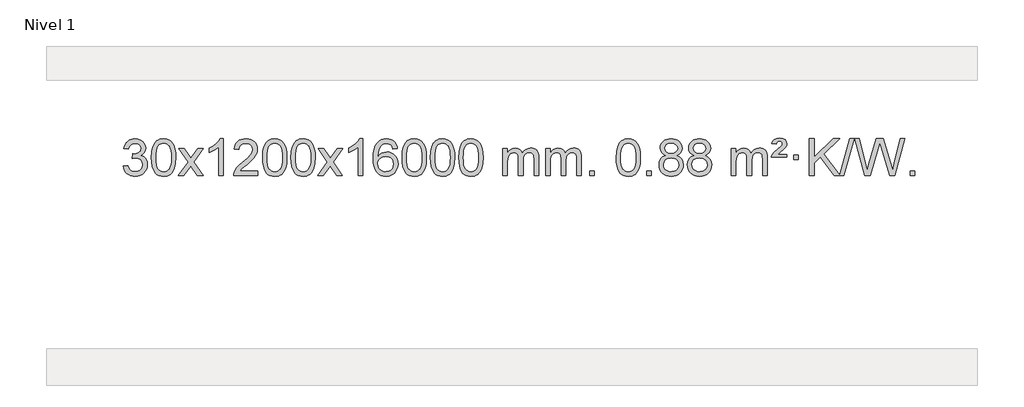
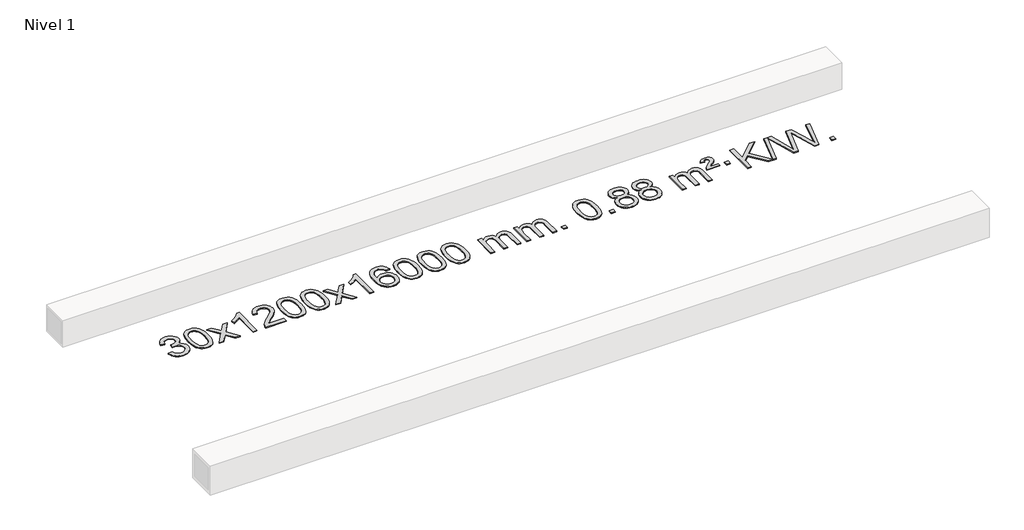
# One storey, part 3 of 4: 1 proxy.
"""IFC4 building model written with IfcOpenShell, lengths in millimetres."""

from ifc_helpers import new_model, si_unit, origin, origin_with_axes, place, context, project, spatial, polyline, outline, extrude, element, save

model = new_model("IFC4")

# Units and contexts
model_context = context("Model", 3, world=origin())
ifc_project = project(units=[si_unit("LENGTHUNIT", "METRE", prefix="MILLI")], contexts=[model_context])

# Site, building, storey
site = spatial("IfcSite", under=ifc_project)
building = spatial("IfcBuilding", under=site)
storey = spatial("IfcBuildingStorey", under=building, Name="Nivel 1", Elevation=0.0)

# Proxy
placement = place(None, origin())
element("IfcBuildingElementProxy", 1, Name="Texto de modelo 1", ObjectType="Texto de modelo 1", at=placement, inside=storey, context=model_context, shape_type="SweptSolid", body=[
    extrude(outline(polyline([(-19164.9669637, -909.5899742), (-19114.7388086, -903.3114548), (-19103.4938823, -934.87573), (-19087.0250316, -956.1883602), (-19064.5229163, -968.3284661), (-19035.1781958, -972.375168), (-19000.744441, -966.8078871), (-18986.4706196, -959.8487861), (-18974.1588355, -950.1060446), (-18957.1626873, -925.1881708), (-18951.4973046, -894.9727962), (-18957.1136364, -866.2902633), (-18973.9626318, -843.0278585), (-18999.4691168, -827.6136029), (-19031.0579174, -822.4755177), (-19066.2764871, -827.9692222), (-19060.6846808, -777.7410671), (-19052.6403278, -778.3296783), (-19022.5475806, -774.7244347), (-18995.643144, -763.9087041), (-18984.569896, -755.729461), (-18976.6604331, -745.6127062), (-18971.9147553, -733.5584395), (-18970.3328628, -719.5666609), (-18974.919125, -697.8738859), (-18988.6779116, -680.2768638), (-19009.6717108, -668.6150046), (-19035.9630107, -664.7277182), (-19062.3033616, -668.6517928), (-19083.836721, -680.4240166), (-19099.5575449, -700.0443897), (-19108.4602892, -727.512912), (-19158.6884443, -721.2343926), (-19152.7348873, -697.2546179), (-19143.8995881, -676.13206), (-19132.1825465, -657.866719), (-19117.5837627, -642.4585947), (-19100.5630891, -630.2265184), (-19081.5803781, -621.489321), (-19060.6356298, -616.2470026), (-19037.7288443, -614.4995631), (-19006.1523064, -617.9453911), (-18977.1509424, -628.2828752), (-18952.6990525, -644.5923103), (-18934.7709366, -665.9539915), (-18923.7712649, -690.565297), (-18920.1047077, -716.623605), (-18923.5873239, -740.9038166), (-18934.0351726, -762.9276854), (-18951.3011009, -781.6896672), (-18975.237956, -796.1842178), (-18943.7963082, -808.8884093), (-18920.4971152, -830.5198707), (-18906.0761409, -859.9013793), (-18901.2691495, -895.855713), (-18903.6726452, -921.3376725), (-18910.8831323, -944.8085438), (-18922.9006109, -966.2683269), (-18939.7250808, -985.7170217), (-18960.2222393, -1001.8547786), (-18983.2577835, -1013.3817477), (-19008.8317136, -1020.2979292), (-19036.9440294, -1022.6033231), (-19062.3524125, -1020.6351544), (-19085.5044527, -1014.7306484), (-19106.40015, -1004.889805), (-19125.0395045, -991.1126243), (-19140.6683579, -974.2084466), (-19152.5325522, -954.9866124), (-19160.6320875, -933.4471215), (-19164.9669637, -909.5899742)])), origin_with_axes(), (0.0, 0.0, 1.0), 10.0),
    extrude(outline(polyline([(-18857.3195138, -818.649545), (-18853.6284312, -754.3315095), (-18842.5551831, -703.0364966), (-18824.2101343, -663.9796914), (-18812.3520713, -648.7463112), (-18798.7036493, -636.3762791), (-18783.218883, -626.8052158), (-18765.8517871, -619.9687421), (-18725.4706068, -614.4995631), (-18694.5194682, -617.7369247), (-18666.8056913, -627.4490093), (-18643.6291256, -643.2556724), (-18626.2896209, -664.7767691), (-18613.1930218, -691.8283585), (-18602.7451732, -724.2264995), (-18595.9025681, -765.3679693), (-18593.6216997, -818.649545), (-18597.2759942, -882.5996984), (-18608.2388776, -933.772084), (-18626.4735619, -972.8656773), (-18638.3040337, -988.1450429), (-18651.9432587, -1000.5794543), (-18667.4464191, -1010.2148969), (-18684.8686972, -1017.0973559), (-18725.4706068, -1022.6033231), (-18753.1353328, -1020.2120901), (-18777.6607992, -1013.0383912), (-18799.0470058, -1001.0822264), (-18817.2939528, -984.3435956), (-18834.8051357, -954.0853015), (-18847.3131236, -916.3835283), (-18854.8179163, -871.2382762), (-18857.3195138, -818.649545)]), holes=[polyline([(-18807.0913588, -818.5514431), (-18805.6198308, -862.2159702), (-18801.2052468, -897.5602329), (-18793.8476069, -924.5842311), (-18783.5469111, -943.2879649), (-18771.0879742, -956.0136163), (-18757.2556112, -965.1033672), (-18742.049822, -970.5572178), (-18725.4706068, -972.375168), (-18708.8913915, -970.5510864), (-18693.6856024, -965.0788418), (-18679.8532394, -955.958434), (-18667.3943025, -943.1898631), (-18657.0936066, -924.4554724), (-18649.7359667, -897.4376056), (-18645.3213828, -862.1362625), (-18643.8498548, -818.5514431), (-18645.2723318, -776.0426785), (-18649.539763, -741.3207496), (-18656.6521482, -714.3856562), (-18666.6094875, -695.2373983), (-18678.859958, -681.8894132), (-18692.8517365, -672.3551382), (-18708.5848232, -666.6345732), (-18726.059218, -664.7277182), (-18742.5525941, -666.4077126), (-18757.5008658, -671.4476959), (-18770.9040332, -679.8476682), (-18782.7620962, -691.6076293), (-18793.4061486, -712.4542757), (-18801.0090431, -740.5604601), (-18805.5707799, -775.9261826), (-18807.0913588, -818.5514431)])]), origin_with_axes(), (0.0, 0.0, 1.0), 10.0),
    extrude(outline(polyline([(-18568.5076222, -1016.3248037), (-18461.1841814, -867.9947832), (-18562.2291028, -721.2343926), (-18501.7983537, -721.2343926), (-18453.0417266, -791.8677357), (-18430.2820938, -825.2223699), (-18410.5636189, -797.9500514), (-18355.0379631, -721.2343926), (-18294.607214, -721.2343926), (-18400.7534324, -867.9947832), (-18298.5312886, -1016.3248037), (-18358.9620377, -1016.3248037), (-18420.4719073, -927.1502081), (-18431.7536218, -910.8652984), (-18508.0768731, -1016.3248037), (-18568.5076222, -1016.3248037)])), origin_with_axes(), (0.0, 0.0, 1.0), 10.0),
    extrude(outline(polyline([(-18078.7831102, -1016.3248037), (-18129.0112653, -1016.3248037), (-18129.0112653, -703.1836494), (-18149.980539, -720.1430094), (-18176.59067, -737.0778439), (-18229.4675754, -762.4371761), (-18229.4675754, -714.9558732), (-18190.0183628, -693.4960902), (-18155.8421254, -667.9650797), (-18128.9009007, -640.8153885), (-18111.1567258, -614.4995631), (-18078.7831102, -614.4995631), (-18078.7831102, -1016.3248037)])), origin_with_axes(), (0.0, 0.0, 1.0), 10.0),
    extrude(outline(polyline([(-17702.0719471, -966.0966486), (-17702.0719471, -1016.3248037), (-17965.7697613, -1016.3248037), (-17964.6661153, -998.6419425), (-17960.3741587, -981.6948452), (-17947.9887982, -954.6309931), (-17929.8644785, -928.3764814), (-17903.646755, -900.8956963), (-17866.9811828, -870.1530243), (-17812.7799022, -822.0095338), (-17780.2591338, -786.4721331), (-17763.9987496, -757.6301847), (-17758.5786216, -729.5730512), (-17763.6921813, -704.4221855), (-17779.0328605, -683.5142254), (-17802.6140964, -669.424345), (-17832.4493262, -664.7277182), (-17863.7806095, -669.3139804), (-17888.1221348, -683.072767), (-17903.830696, -704.9249575), (-17909.2630868, -733.7914314), (-17959.4912419, -727.512912), (-17955.1716941, -701.5833627), (-17947.3143478, -678.9279632), (-17935.919203, -659.5467134), (-17920.9862597, -643.4396134), (-17902.8588744, -630.7783414), (-17881.8804036, -621.7345757), (-17858.0508474, -616.3083162), (-17831.3702057, -614.4995631), (-17804.4504407, -616.5106513), (-17780.4921258, -622.5439161), (-17759.4952609, -632.5993573), (-17741.4598461, -646.6769749), (-17726.9744925, -663.7344368), (-17716.6278114, -682.7294105), (-17710.4198027, -703.661896), (-17708.3504665, -726.5318934), (-17710.5822839, -750.5545876), (-17717.2777363, -774.160349), (-17729.1603247, -798.1707806), (-17746.9535505, -823.4074854), (-17775.3172524, -853.5370208), (-17818.9112688, -892.225944), (-17876.6932675, -940.5411127), (-17899.3547984, -966.0966486), (-17702.0719471, -966.0966486)])), origin_with_axes(), (0.0, 0.0, 1.0), 10.0),
    extrude(outline(polyline([(-17651.8437921, -818.649545), (-17648.1527094, -754.3315095), (-17637.0794613, -703.0364966), (-17618.7344125, -663.9796914), (-17606.8763495, -648.7463112), (-17593.2279275, -636.3762791), (-17577.7431612, -626.8052158), (-17560.3760653, -619.9687421), (-17519.994885, -614.4995631), (-17489.0437465, -617.7369247), (-17461.3299695, -627.4490093), (-17438.1534038, -643.2556724), (-17420.8138991, -664.7767691), (-17407.7173001, -691.8283585), (-17397.2694514, -724.2264995), (-17390.4268463, -765.3679693), (-17388.1459779, -818.649545), (-17391.8002724, -882.5996984), (-17402.7631558, -933.772084), (-17420.9978401, -972.8656773), (-17432.8283119, -988.1450429), (-17446.4675369, -1000.5794543), (-17461.9706973, -1010.2148969), (-17479.3929754, -1017.0973559), (-17519.994885, -1022.6033231), (-17547.659611, -1020.2120901), (-17572.1850774, -1013.0383912), (-17593.571284, -1001.0822264), (-17611.818231, -984.3435956), (-17629.3294139, -954.0853015), (-17641.8374018, -916.3835283), (-17649.3421945, -871.2382762), (-17651.8437921, -818.649545)]), holes=[polyline([(-17601.615637, -818.5514431), (-17600.144109, -862.2159702), (-17595.7295251, -897.5602329), (-17588.3718851, -924.5842311), (-17578.0711893, -943.2879649), (-17565.6122524, -956.0136163), (-17551.7798894, -965.1033672), (-17536.5741002, -970.5572178), (-17519.994885, -972.375168), (-17503.4156697, -970.5510864), (-17488.2098806, -965.0788418), (-17474.3775176, -955.958434), (-17461.9185807, -943.1898631), (-17451.6178848, -924.4554724), (-17444.2602449, -897.4376056), (-17439.845661, -862.1362625), (-17438.374133, -818.5514431), (-17439.79661, -776.0426785), (-17444.0640412, -741.3207496), (-17451.1764264, -714.3856562), (-17461.1337658, -695.2373983), (-17473.3842362, -681.8894132), (-17487.3760147, -672.3551382), (-17503.1091014, -666.6345732), (-17520.5834962, -664.7277182), (-17537.0768723, -666.4077126), (-17552.025144, -671.4476959), (-17565.4283114, -679.8476682), (-17577.2863744, -691.6076293), (-17587.9304268, -712.4542757), (-17595.5333213, -740.5604601), (-17600.0950581, -775.9261826), (-17601.615637, -818.5514431)])]), origin_with_axes(), (0.0, 0.0, 1.0), 10.0),
    extrude(outline(polyline([(-17344.1963422, -818.649545), (-17340.5052595, -754.3315095), (-17329.4320115, -703.0364966), (-17311.0869627, -663.9796914), (-17299.2288997, -648.7463112), (-17285.5804777, -636.3762791), (-17270.0957113, -626.8052158), (-17252.7286155, -619.9687421), (-17212.3474351, -614.4995631), (-17181.3962966, -617.7369247), (-17153.6825196, -627.4490093), (-17130.505954, -643.2556724), (-17113.1664492, -664.7767691), (-17100.0698502, -691.8283585), (-17089.6220016, -724.2264995), (-17082.7793964, -765.3679693), (-17080.4985281, -818.649545), (-17084.1528226, -882.5996984), (-17095.115706, -933.772084), (-17113.3503902, -972.8656773), (-17125.1808621, -988.1450429), (-17138.820087, -1000.5794543), (-17154.3232475, -1010.2148969), (-17171.7455256, -1017.0973559), (-17212.3474351, -1022.6033231), (-17240.0121612, -1020.2120901), (-17264.5376275, -1013.0383912), (-17285.9238342, -1001.0822264), (-17304.1707811, -984.3435956), (-17321.6819641, -954.0853015), (-17334.1899519, -916.3835283), (-17341.6947446, -871.2382762), (-17344.1963422, -818.649545)]), holes=[polyline([(-17293.9681871, -818.5514431), (-17292.4966592, -862.2159702), (-17288.0820752, -897.5602329), (-17280.7244353, -924.5842311), (-17270.4237395, -943.2879649), (-17257.9648025, -956.0136163), (-17244.1324395, -965.1033672), (-17228.9266504, -970.5572178), (-17212.3474351, -972.375168), (-17195.7682199, -970.5510864), (-17180.5624308, -965.0788418), (-17166.7300677, -955.958434), (-17154.2711308, -943.1898631), (-17143.970435, -924.4554724), (-17136.6127951, -897.4376056), (-17132.1982111, -862.1362625), (-17130.7266831, -818.5514431), (-17132.1491602, -776.0426785), (-17136.4165913, -741.3207496), (-17143.5289766, -714.3856562), (-17153.4863159, -695.2373983), (-17165.7367864, -681.8894132), (-17179.7285649, -672.3551382), (-17195.4616516, -666.6345732), (-17212.9360463, -664.7277182), (-17229.4294225, -666.4077126), (-17244.3776942, -671.4476959), (-17257.7808616, -679.8476682), (-17269.6389245, -691.6076293), (-17280.2829769, -712.4542757), (-17287.8858715, -740.5604601), (-17292.4476082, -775.9261826), (-17293.9681871, -818.5514431)])]), origin_with_axes(), (0.0, 0.0, 1.0), 10.0),
    extrude(outline(polyline([(-17055.3844505, -1016.3248037), (-16948.0610098, -867.9947832), (-17049.1059312, -721.2343926), (-16988.6751821, -721.2343926), (-16939.918555, -791.8677357), (-16917.1589222, -825.2223699), (-16897.4404473, -797.9500514), (-16841.9147915, -721.2343926), (-16781.4840424, -721.2343926), (-16887.6302607, -867.9947832), (-16785.408117, -1016.3248037), (-16845.8388661, -1016.3248037), (-16907.3487357, -927.1502081), (-16918.6304502, -910.8652984), (-16994.9537015, -1016.3248037), (-17055.3844505, -1016.3248037)])), origin_with_axes(), (0.0, 0.0, 1.0), 10.0),
    extrude(outline(polyline([(-16565.6599386, -1016.3248037), (-16615.8880936, -1016.3248037), (-16615.8880936, -703.1836494), (-16636.8573674, -720.1430094), (-16663.4674983, -737.0778439), (-16716.3444038, -762.4371761), (-16716.3444038, -714.9558732), (-16676.8951912, -693.4960902), (-16642.7189538, -667.9650797), (-16615.777729, -640.8153885), (-16598.0335541, -614.4995631), (-16565.6599386, -614.4995631), (-16565.6599386, -1016.3248037)])), origin_with_axes(), (0.0, 0.0, 1.0), 10.0),
    extrude(outline(polyline([(-16188.9487755, -721.2343926), (-16239.1769306, -727.512912), (-16247.2703345, -702.6195637), (-16258.2086925, -685.6234155), (-16280.9928507, -669.9516425), (-16308.5349494, -664.7277182), (-16331.8831934, -667.768876), (-16353.8580112, -676.8923495), (-16372.7303576, -696.1080524), (-16388.1446132, -722.5587678), (-16398.5556736, -759.9723667), (-16402.4184346, -812.07672), (-16382.270764, -788.5690605), (-16358.1254423, -772.002108), (-16331.3313704, -762.1796587), (-16303.2374487, -758.9055089), (-16279.1043898, -761.1434577), (-16256.8352663, -767.8573042), (-16236.4300783, -779.0470482), (-16217.8888258, -794.7126898), (-16202.4807016, -813.9222613), (-16191.4748985, -835.743795), (-16184.8714167, -860.1772908), (-16182.6702561, -887.2227489), (-16186.8150599, -923.1893452), (-16199.2494714, -956.5317167), (-16218.9434208, -984.8095794), (-16244.8668388, -1005.5826494), (-16275.8425028, -1018.3481547), (-16310.6931904, -1022.6033231), (-16340.6357192, -1019.7828944), (-16367.6781115, -1011.3216086), (-16391.8203674, -997.2194654), (-16413.062487, -977.476465), (-16430.3805319, -951.2587415), (-16442.750564, -917.732429), (-16450.1725832, -876.8975275), (-16452.6465896, -828.7540371), (-16449.8997374, -774.779617), (-16441.6591807, -728.7146599), (-16427.9249196, -690.5591656), (-16408.6969539, -660.3131342), (-16387.8564389, -640.2696969), (-16363.6927232, -625.9529559), (-16336.2058068, -617.3629113), (-16305.3956897, -614.4995631), (-16282.2620436, -616.271528), (-16261.3234267, -621.5874229), (-16242.579839, -630.4472476), (-16226.0312806, -642.8510022), (-16212.1253412, -658.3817538), (-16201.3096105, -676.6225693), (-16193.5840886, -697.573449), (-16188.9487755, -721.2343926)]), holes=[polyline([(-16402.4184346, -886.4379339), (-16399.5121668, -908.6947946), (-16390.7933635, -929.9461112), (-16377.2553061, -948.2175837), (-16359.8912759, -961.5349119), (-16338.9342649, -969.665104), (-16314.617265, -972.375168), (-16281.4710973, -966.7588362), (-16267.5559608, -959.7384215), (-16255.4127893, -949.9098408), (-16245.5627489, -937.6716331), (-16238.5270057, -923.4223372), (-16232.8984112, -888.8904806), (-16238.4534293, -855.7443128), (-16245.397202, -842.1234819), (-16255.1184837, -830.4708197), (-16267.2984434, -821.1358141), (-16281.6182501, -814.4679529), (-16316.6774042, -809.133664), (-16349.7745211, -814.4679529), (-16377.4515098, -830.4708197), (-16388.3745394, -841.9701978), (-16396.1767034, -855.1311761), (-16400.8580018, -869.9537549), (-16402.4184346, -886.4379339)])]), origin_with_axes(), (0.0, 0.0, 1.0), 10.0),
    extrude(outline(polyline([(-16138.7206204, -818.649545), (-16135.0295377, -754.3315095), (-16123.9562897, -703.0364966), (-16105.6112409, -663.9796914), (-16093.7531779, -648.7463112), (-16080.1047559, -636.3762791), (-16064.6199895, -626.8052158), (-16047.2528937, -619.9687421), (-16006.8717134, -614.4995631), (-15975.9205748, -617.7369247), (-15948.2067979, -627.4490093), (-15925.0302322, -643.2556724), (-15907.6907275, -664.7767691), (-15894.5941284, -691.8283585), (-15884.1462798, -724.2264995), (-15877.3036746, -765.3679693), (-15875.0228063, -818.649545), (-15878.6771008, -882.5996984), (-15889.6399842, -933.772084), (-15907.8746684, -972.8656773), (-15919.7051403, -988.1450429), (-15933.3443652, -1000.5794543), (-15948.8475257, -1010.2148969), (-15966.2698038, -1017.0973559), (-16006.8717134, -1022.6033231), (-16034.5364394, -1020.2120901), (-16059.0619057, -1013.0383912), (-16080.4481124, -1001.0822264), (-16098.6950593, -984.3435956), (-16116.2062423, -954.0853015), (-16128.7142302, -916.3835283), (-16136.2190229, -871.2382762), (-16138.7206204, -818.649545)]), holes=[polyline([(-16088.4924653, -818.5514431), (-16087.0209374, -862.2159702), (-16082.6063534, -897.5602329), (-16075.2487135, -924.5842311), (-16064.9480177, -943.2879649), (-16052.4890808, -956.0136163), (-16038.6567177, -965.1033672), (-16023.4509286, -970.5572178), (-16006.8717134, -972.375168), (-15990.2924981, -970.5510864), (-15975.086709, -965.0788418), (-15961.2543459, -955.958434), (-15948.795409, -943.1898631), (-15938.4947132, -924.4554724), (-15931.1370733, -897.4376056), (-15926.7224893, -862.1362625), (-15925.2509614, -818.5514431), (-15926.6734384, -776.0426785), (-15930.9408695, -741.3207496), (-15938.0532548, -714.3856562), (-15948.0105941, -695.2373983), (-15960.2610646, -681.8894132), (-15974.2528431, -672.3551382), (-15989.9859298, -666.6345732), (-16007.4603245, -664.7277182), (-16023.9537007, -666.4077126), (-16038.9019724, -671.4476959), (-16052.3051398, -679.8476682), (-16064.1632027, -691.6076293), (-16074.8072551, -712.4542757), (-16082.4101497, -740.5604601), (-16086.9718864, -775.9261826), (-16088.4924653, -818.5514431)])]), origin_with_axes(), (0.0, 0.0, 1.0), 10.0),
    extrude(outline(polyline([(-15831.0731706, -818.649545), (-15827.3820879, -754.3315095), (-15816.3088398, -703.0364966), (-15797.963791, -663.9796914), (-15786.105728, -648.7463112), (-15772.457306, -636.3762791), (-15756.9725397, -626.8052158), (-15739.6054439, -619.9687421), (-15699.2242635, -614.4995631), (-15668.273125, -617.7369247), (-15640.559348, -627.4490093), (-15617.3827823, -643.2556724), (-15600.0432776, -664.7767691), (-15586.9466786, -691.8283585), (-15576.4988299, -724.2264995), (-15569.6562248, -765.3679693), (-15567.3753564, -818.649545), (-15571.0296509, -882.5996984), (-15581.9925344, -933.772084), (-15600.2272186, -972.8656773), (-15612.0576904, -988.1450429), (-15625.6969154, -1000.5794543), (-15641.2000758, -1010.2148969), (-15658.622354, -1017.0973559), (-15699.2242635, -1022.6033231), (-15726.8889896, -1020.2120901), (-15751.4144559, -1013.0383912), (-15772.8006626, -1001.0822264), (-15791.0476095, -984.3435956), (-15808.5587925, -954.0853015), (-15821.0667803, -916.3835283), (-15828.571573, -871.2382762), (-15831.0731706, -818.649545)]), holes=[polyline([(-15780.8450155, -818.5514431), (-15779.3734875, -862.2159702), (-15774.9589036, -897.5602329), (-15767.6012637, -924.5842311), (-15757.3005678, -943.2879649), (-15744.8416309, -956.0136163), (-15731.0092679, -965.1033672), (-15715.8034788, -970.5572178), (-15699.2242635, -972.375168), (-15682.6450483, -970.5510864), (-15667.4392591, -965.0788418), (-15653.6068961, -955.958434), (-15641.1479592, -943.1898631), (-15630.8472633, -924.4554724), (-15623.4896234, -897.4376056), (-15619.0750395, -862.1362625), (-15617.6035115, -818.5514431), (-15619.0259886, -776.0426785), (-15623.2934197, -741.3207496), (-15630.405805, -714.3856562), (-15640.3631443, -695.2373983), (-15652.6136147, -681.8894132), (-15666.6053933, -672.3551382), (-15682.3384799, -666.6345732), (-15699.8128747, -664.7277182), (-15716.3062508, -666.4077126), (-15731.2545226, -671.4476959), (-15744.6576899, -679.8476682), (-15756.5157529, -691.6076293), (-15767.1598053, -712.4542757), (-15774.7626999, -740.5604601), (-15779.3244366, -775.9261826), (-15780.8450155, -818.5514431)])]), origin_with_axes(), (0.0, 0.0, 1.0), 10.0),
    extrude(outline(polyline([(-15523.4257208, -818.649545), (-15519.7346381, -754.3315095), (-15508.66139, -703.0364966), (-15490.3163412, -663.9796914), (-15478.4582782, -648.7463112), (-15464.8098562, -636.3762791), (-15449.3250899, -626.8052158), (-15431.957994, -619.9687421), (-15391.5768137, -614.4995631), (-15360.6256752, -617.7369247), (-15332.9118982, -627.4490093), (-15309.7353325, -643.2556724), (-15292.3958278, -664.7767691), (-15279.2992288, -691.8283585), (-15268.8513801, -724.2264995), (-15262.008775, -765.3679693), (-15259.7279066, -818.649545), (-15263.3822011, -882.5996984), (-15274.3450846, -933.772084), (-15292.5797688, -972.8656773), (-15304.4102406, -988.1450429), (-15318.0494656, -1000.5794543), (-15333.552626, -1010.2148969), (-15350.9749041, -1017.0973559), (-15391.5768137, -1022.6033231), (-15419.2415397, -1020.2120901), (-15443.7670061, -1013.0383912), (-15465.1532127, -1001.0822264), (-15483.4001597, -984.3435956), (-15500.9113427, -954.0853015), (-15513.4193305, -916.3835283), (-15520.9241232, -871.2382762), (-15523.4257208, -818.649545)]), holes=[polyline([(-15473.1975657, -818.5514431), (-15471.7260377, -862.2159702), (-15467.3114538, -897.5602329), (-15459.9538139, -924.5842311), (-15449.653118, -943.2879649), (-15437.1941811, -956.0136163), (-15423.3618181, -965.1033672), (-15408.1560289, -970.5572178), (-15391.5768137, -972.375168), (-15374.9975984, -970.5510864), (-15359.7918093, -965.0788418), (-15345.9594463, -955.958434), (-15333.5005094, -943.1898631), (-15323.1998135, -924.4554724), (-15315.8421736, -897.4376056), (-15311.4275897, -862.1362625), (-15309.9560617, -818.5514431), (-15311.3785387, -776.0426785), (-15315.6459699, -741.3207496), (-15322.7583551, -714.3856562), (-15332.7156945, -695.2373983), (-15344.9661649, -681.8894132), (-15358.9579434, -672.3551382), (-15374.6910301, -666.6345732), (-15392.1654249, -664.7277182), (-15408.658801, -666.4077126), (-15423.6070727, -671.4476959), (-15437.0102401, -679.8476682), (-15448.8683031, -691.6076293), (-15459.5123555, -712.4542757), (-15467.11525, -740.5604601), (-15471.6769868, -775.9261826), (-15473.1975657, -818.5514431)])]), origin_with_axes(), (0.0, 0.0, 1.0), 10.0),
    extrude(outline(polyline([(-15046.2582475, -1016.3248037), (-15046.2582475, -721.2343926), (-14996.0300925, -721.2343926), (-14996.0300925, -769.794816), (-14980.9224052, -747.4889044), (-14961.4982359, -730.0145096), (-14938.419772, -718.7205323), (-14912.3492013, -714.9558732), (-14884.4146951, -718.7941087), (-14862.0229444, -730.3088152), (-14845.2965763, -748.7397031), (-14834.3582183, -773.3264831), (-14816.0499577, -747.7893413), (-14795.1665231, -729.5485257), (-14771.7079145, -718.6040364), (-14745.674132, -714.9558732), (-14725.5663153, -716.4733865), (-14707.9171766, -721.0259262), (-14692.7267159, -728.6134923), (-14679.9949331, -739.2360849), (-14669.9302949, -753.0163313), (-14662.7412676, -770.0768589), (-14658.4278512, -790.4176675), (-14656.9900457, -814.0387573), (-14656.9900457, -1016.3248037), (-14707.2182008, -1016.3248037), (-14707.2182008, -835.6211677), (-14708.3831604, -810.5684038), (-14711.8780394, -793.6826202), (-14718.4263389, -782.1188628), (-14728.7515602, -773.0321776), (-14742.0321003, -767.1460656), (-14757.4463559, -765.1840283), (-14784.6573608, -770.2117489), (-14806.8406451, -785.2949107), (-14815.4460181, -796.8647995), (-14821.5927131, -811.4635833), (-14826.5100691, -849.7478363), (-14826.5100691, -1016.3248037), (-14876.7382242, -1016.3248037), (-14876.7382242, -830.0293613), (-14879.6444919, -801.6288713), (-14888.3632952, -781.3708361), (-14903.7039744, -769.2307303), (-14926.4758699, -765.1840283), (-14945.8264629, -767.8818296), (-14963.6564769, -775.9752335), (-14978.3717567, -789.2680363), (-14988.378147, -807.5640342), (-14994.1171061, -832.9478918), (-14996.0300925, -867.5042739), (-14996.0300925, -1016.3248037), (-15046.2582475, -1016.3248037)])), origin_with_axes(), (0.0, 0.0, 1.0), 10.0),
    extrude(outline(polyline([(-14581.6478131, -1016.3248037), (-14581.6478131, -721.2343926), (-14531.419658, -721.2343926), (-14531.419658, -769.794816), (-14516.3119708, -747.4889044), (-14496.8878014, -730.0145096), (-14473.8093376, -718.7205323), (-14447.7387669, -714.9558732), (-14419.8042607, -718.7941087), (-14397.4125099, -730.3088152), (-14380.6861419, -748.7397031), (-14369.7477839, -773.3264831), (-14351.4395233, -747.7893413), (-14330.5560887, -729.5485257), (-14307.0974801, -718.6040364), (-14281.0636976, -714.9558732), (-14260.9558809, -716.4733865), (-14243.3067421, -721.0259262), (-14228.1162814, -728.6134923), (-14215.3844987, -739.2360849), (-14205.3198605, -753.0163313), (-14198.1308331, -770.0768589), (-14193.8174167, -790.4176675), (-14192.3796113, -814.0387573), (-14192.3796113, -1016.3248037), (-14242.6077663, -1016.3248037), (-14242.6077663, -835.6211677), (-14243.772726, -810.5684038), (-14247.267605, -793.6826202), (-14253.8159045, -782.1188628), (-14264.1411258, -773.0321776), (-14277.4216658, -767.1460656), (-14292.8359214, -765.1840283), (-14320.0469263, -770.2117489), (-14342.2302106, -785.2949107), (-14350.8355836, -796.8647995), (-14356.9822786, -811.4635833), (-14361.8996347, -849.7478363), (-14361.8996347, -1016.3248037), (-14412.1277897, -1016.3248037), (-14412.1277897, -830.0293613), (-14415.0340575, -801.6288713), (-14423.7528608, -781.3708361), (-14439.09354, -769.2307303), (-14461.8654355, -765.1840283), (-14481.2160284, -767.8818296), (-14499.0460425, -775.9752335), (-14513.7613223, -789.2680363), (-14523.7677125, -807.5640342), (-14529.5066717, -832.9478918), (-14531.419658, -867.5042739), (-14531.419658, -1016.3248037), (-14581.6478131, -1016.3248037)])), origin_with_axes(), (0.0, 0.0, 1.0), 10.0),
    extrude(outline(polyline([(-14104.4803399, -1016.3248037), (-14104.4803399, -966.0966486), (-14054.2521848, -966.0966486), (-14054.2521848, -1016.3248037), (-14104.4803399, -1016.3248037)])), origin_with_axes(), (0.0, 0.0, 1.0), 10.0),
    extrude(outline(polyline([(-13815.6684482, -818.649545), (-13811.9773655, -754.3315095), (-13800.9041175, -703.0364966), (-13782.5590686, -663.9796914), (-13770.7010057, -648.7463112), (-13757.0525836, -636.3762791), (-13741.5678173, -626.8052158), (-13724.2007215, -619.9687421), (-13683.8195411, -614.4995631), (-13652.8684026, -617.7369247), (-13625.1546256, -627.4490093), (-13601.9780599, -643.2556724), (-13584.6385552, -664.7767691), (-13571.5419562, -691.8283585), (-13561.0941075, -724.2264995), (-13554.2515024, -765.3679693), (-13551.9706341, -818.649545), (-13555.6249286, -882.5996984), (-13566.587812, -933.772084), (-13584.8224962, -972.8656773), (-13596.6529681, -988.1450429), (-13610.292193, -1000.5794543), (-13625.7953535, -1010.2148969), (-13643.2176316, -1017.0973559), (-13683.8195411, -1022.6033231), (-13711.4842672, -1020.2120901), (-13736.0097335, -1013.0383912), (-13757.3959402, -1001.0822264), (-13775.6428871, -984.3435956), (-13793.1540701, -954.0853015), (-13805.6620579, -916.3835283), (-13813.1668506, -871.2382762), (-13815.6684482, -818.649545)]), holes=[polyline([(-13765.4402931, -818.5514431), (-13763.9687652, -862.2159702), (-13759.5541812, -897.5602329), (-13752.1965413, -924.5842311), (-13741.8958454, -943.2879649), (-13729.4369085, -956.0136163), (-13715.6045455, -965.1033672), (-13700.3987564, -970.5572178), (-13683.8195411, -972.375168), (-13667.2403259, -970.5510864), (-13652.0345368, -965.0788418), (-13638.2021737, -955.958434), (-13625.7432368, -943.1898631), (-13615.442541, -924.4554724), (-13608.0849011, -897.4376056), (-13603.6703171, -862.1362625), (-13602.1987891, -818.5514431), (-13603.6212662, -776.0426785), (-13607.8886973, -741.3207496), (-13615.0010826, -714.3856562), (-13624.9584219, -695.2373983), (-13637.2088924, -681.8894132), (-13651.2006709, -672.3551382), (-13666.9337576, -666.6345732), (-13684.4081523, -664.7277182), (-13700.9015285, -666.4077126), (-13715.8498002, -671.4476959), (-13729.2529675, -679.8476682), (-13741.1110305, -691.6076293), (-13751.7550829, -712.4542757), (-13759.3579775, -740.5604601), (-13763.9197142, -775.9261826), (-13765.4402931, -818.5514431)])]), origin_with_axes(), (0.0, 0.0, 1.0), 10.0),
    extrude(outline(polyline([(-13482.9069208, -1016.3248037), (-13482.9069208, -966.0966486), (-13432.6787658, -966.0966486), (-13432.6787658, -1016.3248037), (-13482.9069208, -1016.3248037)])), origin_with_axes(), (0.0, 0.0, 1.0), 10.0),
    extrude(outline(polyline([(-13277.8740222, -795.0069954), (-13304.766196, -781.7632436), (-13323.6385424, -763.8106022), (-13334.7853669, -741.5169533), (-13338.500975, -715.2501788), (-13336.477624, -694.7652831), (-13330.4075711, -675.9849072), (-13320.2908162, -658.9090513), (-13306.1273594, -643.5377152), (-13288.5977824, -630.8335237), (-13268.3826667, -621.7591011), (-13245.4820125, -616.3144476), (-13219.8958198, -614.4995631), (-13194.1869997, -616.3573672), (-13171.1146672, -621.9307794), (-13150.6788224, -631.2197998), (-13132.8794652, -644.2244283), (-13118.458491, -659.8962013), (-13108.1577951, -677.1866551), (-13101.9773776, -696.0957896), (-13099.9172384, -716.623605), (-13103.5837956, -742.0442508), (-13114.5834673, -763.957755), (-13133.0388807, -781.8000318), (-13159.0726632, -795.0069954), (-13128.1583129, -810.9362858), (-13105.6561975, -834.3948943), (-13091.9341991, -864.2546496), (-13087.3601996, -899.3873802), (-13089.6288053, -924.440144), (-13096.4346222, -947.4082433), (-13107.7776504, -968.2916779), (-13123.6578898, -987.0904478), (-13143.2414747, -1002.6273307), (-13165.6945391, -1013.7251043), (-13191.0170831, -1020.3837684), (-13219.2091067, -1022.6033231), (-13247.4011303, -1020.3745713), (-13272.7236743, -1013.6883161), (-13295.1767387, -1002.5445573), (-13314.7603236, -986.943295), (-13330.640563, -968.0127007), (-13341.9835912, -946.8809457), (-13348.7894081, -923.5480302), (-13351.0580138, -898.013954), (-13346.3000733, -861.5200601), (-13332.0262519, -831.5008893), (-13308.9723135, -808.9865112), (-13277.8740222, -795.0069954)]), holes=[polyline([(-13288.2728199, -716.7217068), (-13283.8214478, -738.6474737), (-13270.4673314, -756.1586567), (-13248.6028781, -767.636575), (-13218.6204955, -771.4625477), (-13189.3370887, -767.6611004), (-13167.8037292, -756.2567586), (-13154.5599774, -739.3341868), (-13150.1453935, -718.9780497), (-13154.7071302, -697.8493605), (-13168.3923404, -680.3749657), (-13190.2200055, -668.6395301), (-13219.2091067, -664.7277182), (-13248.3821489, -668.5536909), (-13270.1730258, -680.0316092), (-13283.7478714, -696.8560791), (-13288.2728199, -716.7217068)]), polyline([(-13300.8298587, -896.2481205), (-13298.7329313, -915.4638234), (-13292.4421492, -934.0663896), (-13280.8293409, -950.2899856), (-13262.7663349, -962.3687777), (-13241.1348736, -969.8735704), (-13218.8166992, -972.375168), (-13184.6281992, -967.1144555), (-13170.7345225, -960.5385648), (-13158.9745614, -951.3323179), (-13142.9349064, -927.4322509), (-13137.5883547, -897.8177503), (-13143.1065846, -867.7004776), (-13159.6612744, -843.2731132), (-13171.7400666, -833.8308086), (-13185.9035234, -827.0863054), (-13220.4844309, -821.6907028), (-13254.1946844, -827.012729), (-13267.9320113, -833.6652617), (-13279.5908048, -842.9788076), (-13295.5200952, -866.9401882), (-13300.8298587, -896.2481205)])]), origin_with_axes(), (0.0, 0.0, 1.0), 10.0),
    extrude(outline(polyline([(-12970.2265724, -795.0069954), (-12997.1187462, -781.7632436), (-13015.9910926, -763.8106022), (-13027.137917, -741.5169533), (-13030.8535252, -715.2501788), (-13028.8301742, -694.7652831), (-13022.7601213, -675.9849072), (-13012.6433664, -658.9090513), (-12998.4799096, -643.5377152), (-12980.9503325, -630.8335237), (-12960.7352169, -621.7591011), (-12937.8345627, -616.3144476), (-12912.2483699, -614.4995631), (-12886.5395498, -616.3573672), (-12863.4672174, -621.9307794), (-12843.0313725, -631.2197998), (-12825.2320153, -644.2244283), (-12810.8110411, -659.8962013), (-12800.5103453, -677.1866551), (-12794.3299277, -696.0957896), (-12792.2697886, -716.623605), (-12795.9363458, -742.0442508), (-12806.9360174, -763.957755), (-12825.3914309, -781.8000318), (-12851.4252134, -795.0069954), (-12820.5108631, -810.9362858), (-12798.0087477, -834.3948943), (-12784.2867493, -864.2546496), (-12779.7127498, -899.3873802), (-12781.9813554, -924.440144), (-12788.7871723, -947.4082433), (-12800.1302005, -968.2916779), (-12816.01044, -987.0904478), (-12835.5940249, -1002.6273307), (-12858.0470893, -1013.7251043), (-12883.3696333, -1020.3837684), (-12911.5616569, -1022.6033231), (-12939.7536804, -1020.3745713), (-12965.0762244, -1013.6883161), (-12987.5292889, -1002.5445573), (-13007.1128737, -986.943295), (-13022.9931132, -968.0127007), (-13034.3361414, -946.8809457), (-13041.1419583, -923.5480302), (-13043.4105639, -898.013954), (-13038.6526235, -861.5200601), (-13024.3788021, -831.5008893), (-13001.3248637, -808.9865112), (-12970.2265724, -795.0069954)]), holes=[polyline([(-12980.6253701, -716.7217068), (-12976.173998, -738.6474737), (-12962.8198815, -756.1586567), (-12940.9554283, -767.636575), (-12910.9730457, -771.4625477), (-12881.6896389, -767.6611004), (-12860.1562794, -756.2567586), (-12846.9125276, -739.3341868), (-12842.4979436, -718.9780497), (-12847.0596804, -697.8493605), (-12860.7448906, -680.3749657), (-12882.5725556, -668.6395301), (-12911.5616569, -664.7277182), (-12940.7346991, -668.5536909), (-12962.5255759, -680.0316092), (-12976.1004216, -696.8560791), (-12980.6253701, -716.7217068)]), polyline([(-12993.1824089, -896.2481205), (-12991.0854815, -915.4638234), (-12984.7946994, -934.0663896), (-12973.1818911, -950.2899856), (-12955.1188851, -962.3687777), (-12933.4874238, -969.8735704), (-12911.1692494, -972.375168), (-12876.9807493, -967.1144555), (-12863.0870726, -960.5385648), (-12851.3271115, -951.3323179), (-12835.2874565, -927.4322509), (-12829.9409049, -897.8177503), (-12835.4591348, -867.7004776), (-12852.0138246, -843.2731132), (-12864.0926168, -833.8308086), (-12878.2560736, -827.0863054), (-12912.8369811, -821.6907028), (-12946.5472346, -827.012729), (-12960.2845614, -833.6652617), (-12971.943355, -842.9788076), (-12987.8726454, -866.9401882), (-12993.1824089, -896.2481205)])]), origin_with_axes(), (0.0, 0.0, 1.0), 10.0),
    extrude(outline(polyline([(-12566.2430907, -1016.3248037), (-12566.2430907, -721.2343926), (-12516.0149357, -721.2343926), (-12516.0149357, -769.794816), (-12500.9072484, -747.4889044), (-12481.483079, -730.0145096), (-12458.4046152, -718.7205323), (-12432.3340445, -714.9558732), (-12404.3995383, -718.7941087), (-12382.0077875, -730.3088152), (-12365.2814195, -748.7397031), (-12354.3430615, -773.3264831), (-12336.0348009, -747.7893413), (-12315.1513663, -729.5485257), (-12291.6927577, -718.6040364), (-12265.6589752, -714.9558732), (-12245.5511585, -716.4733865), (-12227.9020198, -721.0259262), (-12212.711559, -728.6134923), (-12199.9797763, -739.2360849), (-12189.9151381, -753.0163313), (-12182.7261108, -770.0768589), (-12178.4126944, -790.4176675), (-12176.9748889, -814.0387573), (-12176.9748889, -1016.3248037), (-12227.203044, -1016.3248037), (-12227.203044, -835.6211677), (-12228.3680036, -810.5684038), (-12231.8628826, -793.6826202), (-12238.4111821, -782.1188628), (-12248.7364034, -773.0321776), (-12262.0169434, -767.1460656), (-12277.431199, -765.1840283), (-12304.642204, -770.2117489), (-12326.8254883, -785.2949107), (-12335.4308613, -796.8647995), (-12341.5775563, -811.4635833), (-12346.4949123, -849.7478363), (-12346.4949123, -1016.3248037), (-12396.7230673, -1016.3248037), (-12396.7230673, -830.0293613), (-12399.6293351, -801.6288713), (-12408.3481384, -781.3708361), (-12423.6888176, -769.2307303), (-12446.4607131, -765.1840283), (-12465.811306, -767.8818296), (-12483.6413201, -775.9752335), (-12498.3565999, -789.2680363), (-12508.3629902, -807.5640342), (-12514.1019493, -832.9478918), (-12516.0149357, -867.5042739), (-12516.0149357, -1016.3248037), (-12566.2430907, -1016.3248037)])), origin_with_axes(), (0.0, 0.0, 1.0), 10.0),
    extrude(outline(polyline([(-12133.0252532, -815.4121834), (-12129.1992805, -799.5932576), (-12120.8606219, -783.7252809), (-12099.3517879, -758.5866779), (-12067.3951053, -730.8483754), (-12023.2492658, -693.4715647), (-12016.1123551, -681.9445955), (-12013.7333849, -670.1233208), (-12015.6218458, -658.0322659), (-12021.2872285, -648.2466048), (-12030.6559567, -641.7718817), (-12043.6544538, -639.6136406), (-12056.0888653, -641.2323214), (-12064.9425586, -646.0883637), (-12071.3682308, -655.5551938), (-12076.5185787, -671.0062376), (-12126.7467338, -664.7277182), (-12115.9064777, -639.5155388), (-12099.2782115, -621.9553049), (-12075.5130346, -611.654609), (-12043.2620464, -608.2210437), (-12007.479391, -612.3535848), (-11982.7331954, -624.751208), (-11968.3122212, -643.0839941), (-11963.5052298, -665.0220238), (-11967.6009827, -687.9288093), (-11979.8882413, -709.5602706), (-12000.4160567, -729.3768475), (-12036.8854251, -757.433981), (-12062.490012, -784.0195865), (-11963.5052298, -784.0195865), (-11963.5052298, -815.4121834), (-12133.0252532, -815.4121834)])), origin_with_axes(), (0.0, 0.0, 1.0), 10.0),
    extrude(outline(polyline([(-11888.1629972, -840.5262609), (-11888.1629972, -790.2981059), (-11837.9348421, -790.2981059), (-11837.9348421, -840.5262609), (-11888.1629972, -840.5262609)])), origin_with_axes(), (0.0, 0.0, 1.0), 10.0),
    extrude(outline(polyline([(-11447.2932142, -1016.3248037), (-11600.7245317, -813.6463498), (-11668.4148188, -878.1973772), (-11668.4148188, -1016.3248037), (-11718.6429738, -1016.3248037), (-11718.6429738, -614.4995631), (-11668.4148188, -614.4995631), (-11668.4148188, -811.1938032), (-11462.4009015, -614.4995631), (-11392.1599659, -614.4995631), (-11565.1135545, -779.7031044), (-11390.4599447, -1010.2802839), (-11279.1466169, -614.4995631), (-11233.8235551, -614.4995631), (-11346.836904, -1016.3248037), (-11385.8814465, -1016.3248037), (-11392.1599659, -1016.3248037), (-11447.2932142, -1016.3248037)])), origin_with_axes(), (0.0, 0.0, 1.0), 10.0),
    extrude(outline(polyline([(-11119.3386782, -1016.3248037), (-11228.9184619, -614.4995631), (-11177.1206769, -614.4995631), (-11113.5506682, -878.5897847), (-11093.9302951, -960.1124348), (-11072.9364959, -888.0075638), (-10993.2777812, -614.4995631), (-10918.6222617, -614.4995631), (-10860.7421611, -812.763433), (-10835.9469146, -886.3398321), (-10817.6754422, -960.1124348), (-10798.6436803, -880.9442295), (-10734.4850603, -614.4995631), (-10682.6872754, -614.4995631), (-10792.3651609, -1016.3248037), (-10846.0268813, -1016.3248037), (-10942.3629131, -706.3229091), (-10955.8028686, -663.0599865), (-10970.9105559, -715.152077), (-11058.7117254, -1016.3248037), (-11119.3386782, -1016.3248037)])), origin_with_axes(), (0.0, 0.0, 1.0), 10.0),
    extrude(outline(polyline([(-10626.180601, -1016.3248037), (-10626.180601, -966.0966486), (-10575.9524459, -966.0966486), (-10575.9524459, -1016.3248037), (-10626.180601, -1016.3248037)])), origin_with_axes(), (0.0, 0.0, 1.0), 10.0),
])

save(model, "model.ifc")
